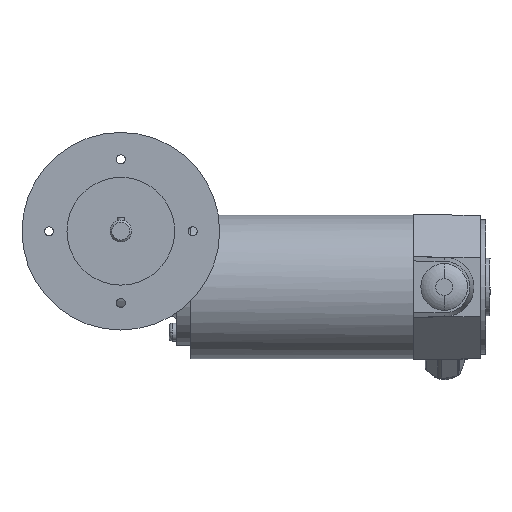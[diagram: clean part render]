
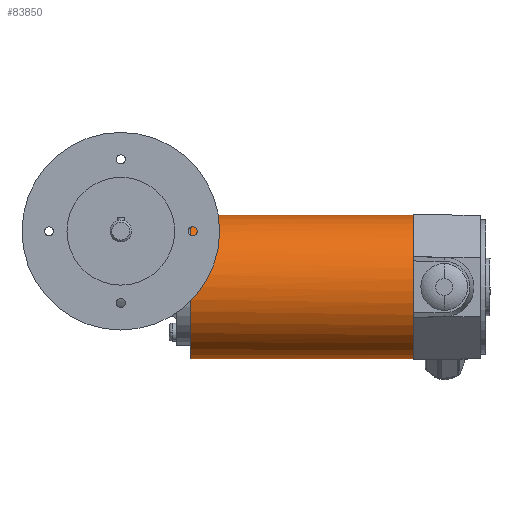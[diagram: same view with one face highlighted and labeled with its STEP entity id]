
A CAD part, top view. The second image highlights one B-rep face of the part: STEP entity #83850.
In plain terms, the highlighted cylindrical face has radius 40 mm (diameter 80 mm), a partial arc.
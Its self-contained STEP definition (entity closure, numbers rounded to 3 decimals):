
#5680=CARTESIAN_POINT('',(-51.849,455.,
19.808));
#5690=DIRECTION('',(-0.026,0.,
1.));
#5700=DIRECTION('',(1.,0.,
0.026));
#5710=AXIS2_PLACEMENT_3D('',#5680,#5690,#5700);
#5720=CIRCLE('',#5710,40.);
#5730=CARTESIAN_POINT('',(-11.863,455.,
20.855));
#5740=VERTEX_POINT('',#5730);
#5750=CARTESIAN_POINT('',(-91.835,455.,
18.761));
#5760=VERTEX_POINT('',#5750);
#5770=EDGE_CURVE('',#5740,#5760,#5720,.T.);
#36770=CARTESIAN_POINT('',(-48.603,455.,
-104.15));
#36780=DIRECTION('',(-0.026,0.,
1.));
#36790=DIRECTION('',(1.,0.,
0.026));
#36800=AXIS2_PLACEMENT_3D('',#36770,#36780,#36790);
#36810=CIRCLE('',#36800,40.);
#36820=CARTESIAN_POINT('',(-59.452,493.5,
-104.434));
#36830=VERTEX_POINT('',#36820);
#36840=CARTESIAN_POINT('',(-88.589,455.,
-105.197));
#36850=VERTEX_POINT('',#36840);
#36860=EDGE_CURVE('',#36830,#36850,#36810,.T.);
#36880=CARTESIAN_POINT('',(-8.617,455.,
-103.102));
#36890=VERTEX_POINT('',#36880);
#36920=EDGE_CURVE('',#36890,#36830,#36810,.T.);
#38460=CARTESIAN_POINT('',(-48.603,455.,
-104.15));
#38470=DIRECTION('',(-0.026,0.,
1.));
#38480=DIRECTION('',(1.,0.,
0.026));
#38490=AXIS2_PLACEMENT_3D('',#38460,#38470,#38480);
#38500=CYLINDRICAL_SURFACE('',#38490,40.);
#38510=CARTESIAN_POINT('',(-8.617,455.,
-103.102));
#38520=DIRECTION('',(-0.026,0.,
1.));
#38530=VECTOR('',#38520,1.);
#38540=LINE('',#38510,#38530);
#38550=EDGE_CURVE('',#36890,#5740,#38540,.T.);
#38580=CARTESIAN_POINT('',(-88.589,455.,
-105.197));
#38590=DIRECTION('',(-0.026,0.,
1.));
#38600=VECTOR('',#38590,1.);
#38610=LINE('',#38580,#38600);
#38620=EDGE_CURVE('',#36850,#5760,#38610,.T.);
#83780=ORIENTED_EDGE('',*,*,#38550,.F.);
#83790=ORIENTED_EDGE('',*,*,#5770,.F.);
#83800=ORIENTED_EDGE('',*,*,#38620,.T.);
#83810=ORIENTED_EDGE('',*,*,#36860,.T.);
#83820=ORIENTED_EDGE('',*,*,#36920,.T.);
#83830=EDGE_LOOP('',(#83820,#83810,#83800,#83790,#83780));
#83840=FACE_OUTER_BOUND('',#83830,.T.);
#83850=ADVANCED_FACE('',(#83840),#38500,.T.);
